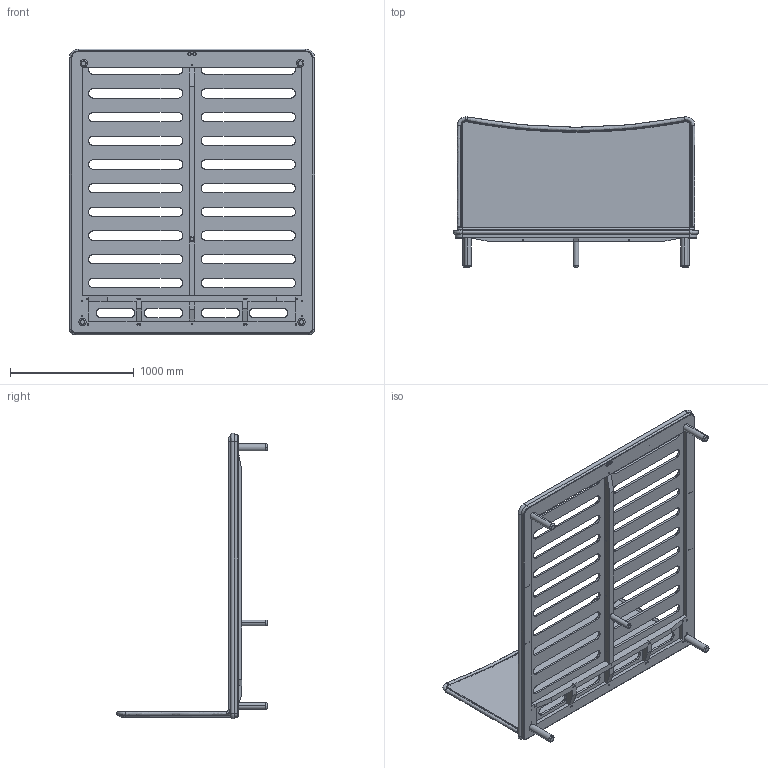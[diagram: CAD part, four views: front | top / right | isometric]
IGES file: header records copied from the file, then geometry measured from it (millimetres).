
Start section: SolidWorks IGES file using analytic representation for surfaces
Global section: file name: C:\Users\David.BDLE\Desktop\NOVOS 3D cad files\Carlton\061AC_Carlton Bed_ve\061AC_Carlton Bed_3D IGS.IGS; native system: SolidWorks 2016; preprocessor: SolidWorks 2016; author: David; date: 201215.093926; units: millimetre
Bounding box: 1980 x 1214.99 x 2310 mm (x, y, z)
Surface area: 13267897.9 mm2 (no closed solid volume)
Topology: 0 solids, 0 shells, 950 faces, 15791 edges, 15725 vertices
Faces by surface type: revolution 627, bspline 323
